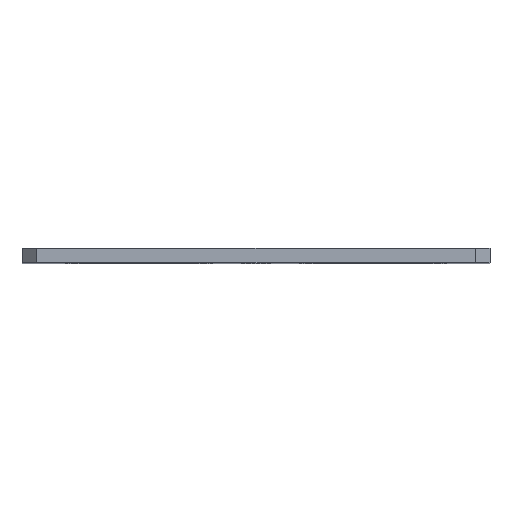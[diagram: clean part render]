
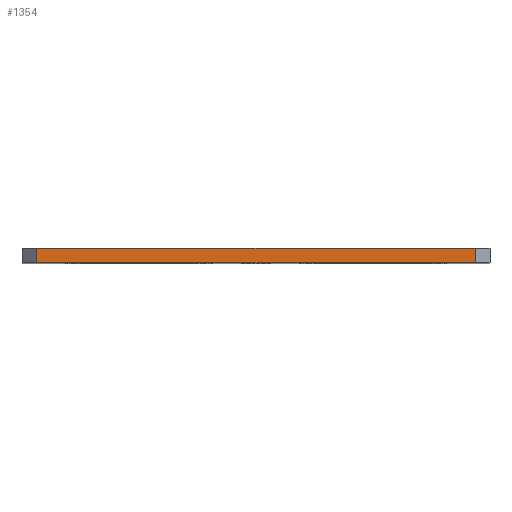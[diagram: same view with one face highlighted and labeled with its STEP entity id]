
A CAD part, top view. The second image highlights one B-rep face of the part: STEP entity #1354.
In plain terms, the highlighted planar face has unit normal (0, 0, 1).
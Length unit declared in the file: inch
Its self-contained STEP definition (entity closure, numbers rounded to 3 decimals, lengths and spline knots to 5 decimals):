
#295 = ORIENTED_EDGE ( 'NONE', *, *, #1229, .T. ) ;
#296 = ORIENTED_EDGE ( 'NONE', *, *, #1228, .T. ) ;
#297 = ORIENTED_EDGE ( 'NONE', *, *, #1227, .T. ) ;
#299 = ORIENTED_EDGE ( 'NONE', *, *, #1226, .F. ) ;
#548 = EDGE_LOOP ( 'NONE', ( #299, #297, #296, #295 ) ) ;
#647 = DIRECTION ( 'NONE',  ( 0., 1., 0. ) ) ;
#648 = CARTESIAN_POINT ( 'NONE',  ( 3.875, 0.125, 0. ) ) ;
#649 = LINE ( 'NONE', #648, #990 ) ;
#650 = DIRECTION ( 'NONE',  ( 1., 0., 0. ) ) ;
#651 = CARTESIAN_POINT ( 'NONE',  ( 0., 0., 0. ) ) ;
#652 = DIRECTION ( 'NONE',  ( 0., -1., 0. ) ) ;
#653 = CARTESIAN_POINT ( 'NONE',  ( 0.125, 0.125, 0. ) ) ;
#655 = LINE ( 'NONE', #653, #992 ) ;
#656 = DIRECTION ( 'NONE',  ( 1., 0., 0. ) ) ;
#657 = CARTESIAN_POINT ( 'NONE',  ( 0., 0.125, 0. ) ) ;
#658 = LINE ( 'NONE', #657, #993 ) ;
#668 = LINE ( 'NONE', #651, #995 ) ;
#716 = CARTESIAN_POINT ( 'NONE',  ( 3.875, 0., 0. ) ) ;
#717 = CARTESIAN_POINT ( 'NONE',  ( 0.125, 0., 0. ) ) ;
#722 = CARTESIAN_POINT ( 'NONE',  ( 3.875, 0.125, 0. ) ) ;
#723 = CARTESIAN_POINT ( 'NONE',  ( 0.125, 0.125, 0. ) ) ;
#774 = VERTEX_POINT ( 'NONE', #723 ) ;
#775 = VERTEX_POINT ( 'NONE', #722 ) ;
#780 = VERTEX_POINT ( 'NONE', #717 ) ;
#781 = VERTEX_POINT ( 'NONE', #716 ) ;
#829 = AXIS2_PLACEMENT_3D ( 'NONE', #1104, #1111, #1112 ) ;
#990 = VECTOR ( 'NONE', #647, 39.37008 ) ;
#992 = VECTOR ( 'NONE', #652, 39.37008 ) ;
#993 = VECTOR ( 'NONE', #656, 39.37008 ) ;
#995 = VECTOR ( 'NONE', #650, 39.37008 ) ;
#1104 = CARTESIAN_POINT ( 'NONE',  ( 0., 0.125, 0. ) ) ;
#1108 = FACE_OUTER_BOUND ( 'NONE', #548, .T. ) ;
#1109 = PLANE ( 'NONE',  #829 ) ;
#1111 = DIRECTION ( 'NONE',  ( 0., 0., -1. ) ) ;
#1112 = DIRECTION ( 'NONE',  ( -1., 0., 0. ) ) ;
#1226 = EDGE_CURVE ( 'NONE', #774, #775, #658, .T. ) ;
#1227 = EDGE_CURVE ( 'NONE', #774, #780, #655, .T. ) ;
#1228 = EDGE_CURVE ( 'NONE', #780, #781, #668, .T. ) ;
#1229 = EDGE_CURVE ( 'NONE', #781, #775, #649, .T. ) ;
#1354 = ADVANCED_FACE ( 'NONE', ( #1108 ), #1109, .F. ) ;
